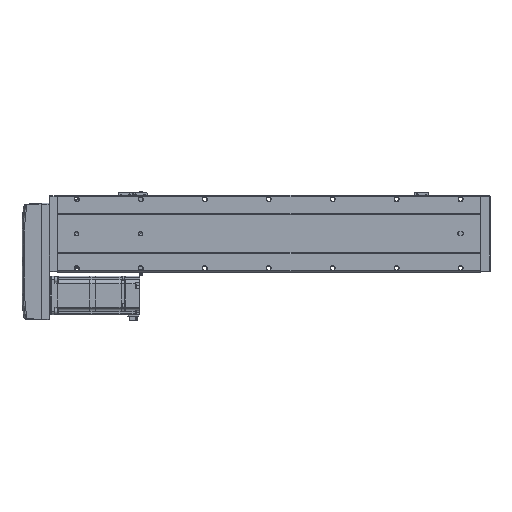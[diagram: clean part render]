
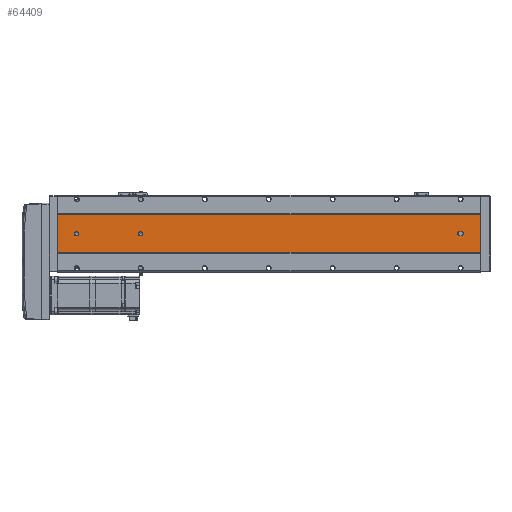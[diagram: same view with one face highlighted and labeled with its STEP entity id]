
A CAD part, front view. The second image highlights one B-rep face of the part: STEP entity #64409.
In plain terms, the highlighted planar face has unit normal (0, -1, 0).
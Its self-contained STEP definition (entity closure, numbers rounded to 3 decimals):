
#38 = CARTESIAN_POINT ( 'NONE',  ( -69.892, -52.848, 0. ) ) ;
#833 = ORIENTED_EDGE ( 'NONE', *, *, #34362, .F. ) ;
#999 = AXIS2_PLACEMENT_3D ( 'NONE', #21958, #77626, #71683 ) ;
#1547 = CARTESIAN_POINT ( 'NONE',  ( -43.392, -52.848, 32. ) ) ;
#2481 = EDGE_LOOP ( 'NONE', ( #30293, #26480 ) ) ;
#2914 = DIRECTION ( 'NONE',  ( 0., 0., 1. ) ) ;
#4337 = EDGE_CURVE ( 'NONE', #79944, #71671, #17093, .T. ) ;
#4983 = DIRECTION ( 'NONE',  ( 0., 1., 0. ) ) ;
#5303 = LINE ( 'NONE', #62675, #58594 ) ;
#7559 = CARTESIAN_POINT ( 'NONE',  ( -43.392, -52.848, 661. ) ) ;
#7941 = DIRECTION ( 'NONE',  ( 0., 1., 0. ) ) ;
#8214 = CARTESIAN_POINT ( 'NONE',  ( -39.892, -52.848, 531. ) ) ;
#8514 = DIRECTION ( 'NONE',  ( 1., 0., 0. ) ) ;
#8840 = VERTEX_POINT ( 'NONE', #47414 ) ;
#11962 = DIRECTION ( 'NONE',  ( 0., 1., 0. ) ) ;
#15008 = ORIENTED_EDGE ( 'NONE', *, *, #25917, .T. ) ;
#15859 = VECTOR ( 'NONE', #8514, 1000. ) ;
#16736 = EDGE_CURVE ( 'NONE', #59367, #55263, #62607, .T. ) ;
#17093 = LINE ( 'NONE', #7559, #78375 ) ;
#17205 = EDGE_CURVE ( 'NONE', #68769, #39177, #5303, .T. ) ;
#17380 = AXIS2_PLACEMENT_3D ( 'NONE', #29940, #11962, #29656 ) ;
#18763 = CARTESIAN_POINT ( 'NONE',  ( -39.892, -52.848, 26.5 ) ) ;
#18877 = AXIS2_PLACEMENT_3D ( 'NONE', #29151, #4983, #54081 ) ;
#19094 = AXIS2_PLACEMENT_3D ( 'NONE', #46074, #59339, #2914 ) ;
#20659 = CARTESIAN_POINT ( 'NONE',  ( -39.892, -52.848, 32. ) ) ;
#21139 = DIRECTION ( 'NONE',  ( 0., 0., -1. ) ) ;
#21432 = CIRCLE ( 'NONE', #43700, 3.5 ) ;
#21958 = CARTESIAN_POINT ( 'NONE',  ( -39.892, -52.848, 631. ) ) ;
#22145 = DIRECTION ( 'NONE',  ( 0., 0., -1. ) ) ;
#22970 = CARTESIAN_POINT ( 'NONE',  ( -69.892, -52.848, 661. ) ) ;
#23657 = CARTESIAN_POINT ( 'NONE',  ( -39.892, -52.848, 634.5 ) ) ;
#24558 = EDGE_CURVE ( 'NONE', #55263, #59367, #73671, .T. ) ;
#24685 = EDGE_CURVE ( 'NONE', #32503, #30141, #53230, .T. ) ;
#24928 = AXIS2_PLACEMENT_3D ( 'NONE', #78674, #65965, #42321 ) ;
#25145 = FACE_OUTER_BOUND ( 'NONE', #56092, .T. ) ;
#25878 = VECTOR ( 'NONE', #22145, 1000. ) ;
#25917 = EDGE_CURVE ( 'NONE', #30141, #32503, #21432, .T. ) ;
#26480 = ORIENTED_EDGE ( 'NONE', *, *, #16736, .T. ) ;
#27472 = VECTOR ( 'NONE', #21139, 1000. ) ;
#28082 = CARTESIAN_POINT ( 'NONE',  ( -43.392, -52.848, 30. ) ) ;
#28099 = CARTESIAN_POINT ( 'NONE',  ( -36.392, -52.848, 661. ) ) ;
#28415 = ORIENTED_EDGE ( 'NONE', *, *, #62547, .T. ) ;
#29151 = CARTESIAN_POINT ( 'NONE',  ( -69.892, -52.848, 661. ) ) ;
#29656 = DIRECTION ( 'NONE',  ( 0., 0., 1. ) ) ;
#29940 = CARTESIAN_POINT ( 'NONE',  ( -39.892, -52.848, 30. ) ) ;
#30141 = VERTEX_POINT ( 'NONE', #54932 ) ;
#30293 = ORIENTED_EDGE ( 'NONE', *, *, #24558, .T. ) ;
#32503 = VERTEX_POINT ( 'NONE', #32843 ) ;
#32843 = CARTESIAN_POINT ( 'NONE',  ( -39.892, -52.848, 534.5 ) ) ;
#33518 = CARTESIAN_POINT ( 'NONE',  ( -69.892, -52.848, 661. ) ) ;
#33559 = ORIENTED_EDGE ( 'NONE', *, *, #4337, .T. ) ;
#33784 = CARTESIAN_POINT ( 'NONE',  ( -69.892, -52.848, 0. ) ) ;
#34010 = EDGE_CURVE ( 'NONE', #66098, #79944, #57677, .T. ) ;
#34333 = LINE ( 'NONE', #33784, #15859 ) ;
#34362 = EDGE_CURVE ( 'NONE', #66962, #47849, #35291, .T. ) ;
#35291 = LINE ( 'NONE', #77345, #27472 ) ;
#37429 = DIRECTION ( 'NONE',  ( 0., 1., 0. ) ) ;
#37813 = LINE ( 'NONE', #22970, #77624 ) ;
#39177 = VERTEX_POINT ( 'NONE', #38 ) ;
#39916 = CARTESIAN_POINT ( 'NONE',  ( -39.892, -52.848, 631. ) ) ;
#40128 = CIRCLE ( 'NONE', #19094, 3.5 ) ;
#40483 = CARTESIAN_POINT ( 'NONE',  ( -39.892, -52.848, 627.5 ) ) ;
#41930 = ORIENTED_EDGE ( 'NONE', *, *, #34010, .T. ) ;
#42321 = DIRECTION ( 'NONE',  ( 0., 0., 1. ) ) ;
#43221 = CARTESIAN_POINT ( 'NONE',  ( -36.392, -52.848, 30. ) ) ;
#43242 = ORIENTED_EDGE ( 'NONE', *, *, #65390, .F. ) ;
#43700 = AXIS2_PLACEMENT_3D ( 'NONE', #8214, #7941, #70422 ) ;
#44267 = ORIENTED_EDGE ( 'NONE', *, *, #24685, .T. ) ;
#46074 = CARTESIAN_POINT ( 'NONE',  ( -39.892, -52.848, 30. ) ) ;
#46282 = EDGE_LOOP ( 'NONE', ( #79990, #76642, #41930, #33559, #64579 ) ) ;
#46491 = CARTESIAN_POINT ( 'NONE',  ( -9.892, -52.848, 0. ) ) ;
#47036 = EDGE_CURVE ( 'NONE', #8840, #67492, #66739, .T. ) ;
#47414 = CARTESIAN_POINT ( 'NONE',  ( -36.392, -52.848, 32. ) ) ;
#47773 = EDGE_LOOP ( 'NONE', ( #15008, #44267 ) ) ;
#47849 = VERTEX_POINT ( 'NONE', #46491 ) ;
#47866 = PLANE ( 'NONE',  #18877 ) ;
#51585 = DIRECTION ( 'NONE',  ( 0., 1., 0. ) ) ;
#53230 = CIRCLE ( 'NONE', #24928, 3.5 ) ;
#54081 = DIRECTION ( 'NONE',  ( 0., 0., 1. ) ) ;
#54932 = CARTESIAN_POINT ( 'NONE',  ( -39.892, -52.848, 527.5 ) ) ;
#55263 = VERTEX_POINT ( 'NONE', #40483 ) ;
#56092 = EDGE_LOOP ( 'NONE', ( #28415, #833, #43242, #74174 ) ) ;
#56924 = AXIS2_PLACEMENT_3D ( 'NONE', #20659, #37429, #61879 ) ;
#57677 = CIRCLE ( 'NONE', #17380, 3.5 ) ;
#57848 = CIRCLE ( 'NONE', #56924, 3.5 ) ;
#58125 = FACE_BOUND ( 'NONE', #46282, .T. ) ;
#58594 = VECTOR ( 'NONE', #68928, 1000. ) ;
#59274 = AXIS2_PLACEMENT_3D ( 'NONE', #39916, #51585, #76015 ) ;
#59339 = DIRECTION ( 'NONE',  ( 0., 1., 0. ) ) ;
#59367 = VERTEX_POINT ( 'NONE', #23657 ) ;
#60696 = CARTESIAN_POINT ( 'NONE',  ( -9.892, -52.848, 661. ) ) ;
#61879 = DIRECTION ( 'NONE',  ( 0., 0., 1. ) ) ;
#62547 = EDGE_CURVE ( 'NONE', #39177, #47849, #34333, .T. ) ;
#62607 = CIRCLE ( 'NONE', #59274, 3.5 ) ;
#62675 = CARTESIAN_POINT ( 'NONE',  ( -69.892, -52.848, 661. ) ) ;
#64409 = ADVANCED_FACE ( 'NONE', ( #58125, #67933, #74667, #25145 ), #47866, .F. ) ;
#64579 = ORIENTED_EDGE ( 'NONE', *, *, #66446, .T. ) ;
#65390 = EDGE_CURVE ( 'NONE', #68769, #66962, #37813, .T. ) ;
#65965 = DIRECTION ( 'NONE',  ( 0., 1., 0. ) ) ;
#66098 = VERTEX_POINT ( 'NONE', #18763 ) ;
#66446 = EDGE_CURVE ( 'NONE', #71671, #8840, #57848, .T. ) ;
#66739 = LINE ( 'NONE', #28099, #25878 ) ;
#66962 = VERTEX_POINT ( 'NONE', #60696 ) ;
#67492 = VERTEX_POINT ( 'NONE', #43221 ) ;
#67933 = FACE_BOUND ( 'NONE', #47773, .T. ) ;
#68103 = EDGE_CURVE ( 'NONE', #67492, #66098, #40128, .T. ) ;
#68769 = VERTEX_POINT ( 'NONE', #33518 ) ;
#68928 = DIRECTION ( 'NONE',  ( 0., 0., -1. ) ) ;
#69219 = DIRECTION ( 'NONE',  ( 0., 0., 1. ) ) ;
#70422 = DIRECTION ( 'NONE',  ( 0., 0., 1. ) ) ;
#71671 = VERTEX_POINT ( 'NONE', #1547 ) ;
#71683 = DIRECTION ( 'NONE',  ( 0., 0., 1. ) ) ;
#72140 = DIRECTION ( 'NONE',  ( 1., 0., 0. ) ) ;
#73671 = CIRCLE ( 'NONE', #999, 3.5 ) ;
#74174 = ORIENTED_EDGE ( 'NONE', *, *, #17205, .T. ) ;
#74667 = FACE_BOUND ( 'NONE', #2481, .T. ) ;
#76015 = DIRECTION ( 'NONE',  ( 0., 0., 1. ) ) ;
#76642 = ORIENTED_EDGE ( 'NONE', *, *, #68103, .T. ) ;
#77345 = CARTESIAN_POINT ( 'NONE',  ( -9.892, -52.848, 661. ) ) ;
#77624 = VECTOR ( 'NONE', #72140, 1000. ) ;
#77626 = DIRECTION ( 'NONE',  ( 0., 1., 0. ) ) ;
#78375 = VECTOR ( 'NONE', #69219, 1000. ) ;
#78674 = CARTESIAN_POINT ( 'NONE',  ( -39.892, -52.848, 531. ) ) ;
#79944 = VERTEX_POINT ( 'NONE', #28082 ) ;
#79990 = ORIENTED_EDGE ( 'NONE', *, *, #47036, .T. ) ;
